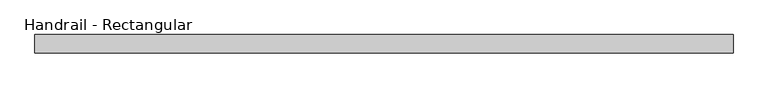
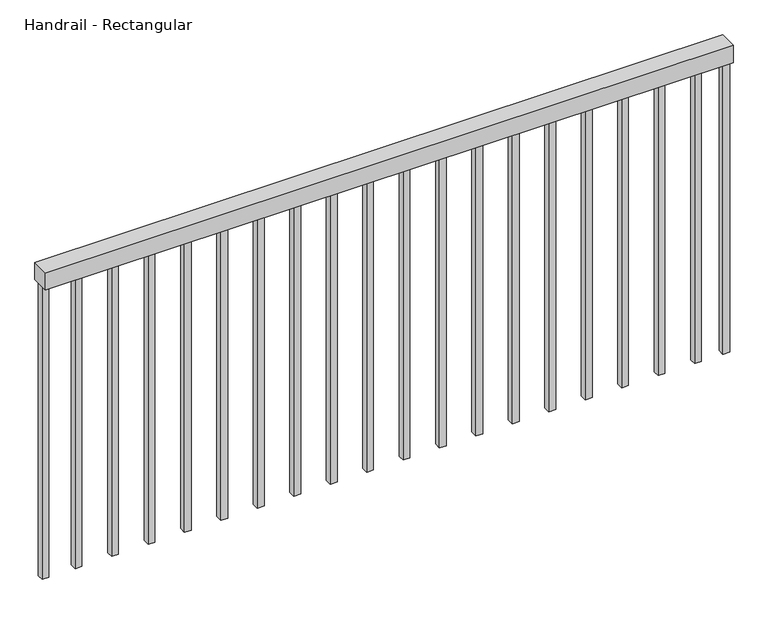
"""IFC4 building model written with IfcOpenShell, lengths in millimetres: railing geometry, Handrail - Rectangular."""

import ifcopenshell
import ifcopenshell.guid

model = None  # the IFC model being written
_history = None  # IfcOwnerHistory: only IFC2X3 demands one
_inside = {}  # id of a spatial element -> (the spatial element, [elements in it])
_under = {}  # id of a project, library or spatial element -> (it, [spatial elements below it])
_declared = {}  # id of a project -> (the project, [libraries it declares])
_typed = {}  # id of a type object -> (the type object, [elements of that type])
_made_of = {}  # id of a material, layer set ... -> (it, [elements and type objects made of it])


def new_model(schema):
    """Start an empty IFC model of exactly this schema.

    Asked for "IFC4X3", IfcOpenShell would pick the latest addendum, in which some entities
    have other attributes; the version numbers below select the first issue.
    IFC2X3 requires an IfcOwnerHistory on every rooted entity: one is made here for all.
    """
    global model, _history
    if schema == "IFC4X3":
        model = ifcopenshell.file(schema_version=(4, 3, 0, 0))
    else:
        model = ifcopenshell.file(schema=schema)
    _inside.clear()
    _under.clear()
    _declared.clear()
    _typed.clear()
    _made_of.clear()
    _history = None
    if model.schema == "IFC2X3":
        org = make("IfcOrganization", Name="unknown")
        user = make(
            "IfcPersonAndOrganization",
            ThePerson=make("IfcPerson", FamilyName="unknown"),
            TheOrganization=org,
        )
        app = make(
            "IfcApplication",
            ApplicationDeveloper=org,
            Version="unknown",
            ApplicationFullName="unknown",
            ApplicationIdentifier="unknown",
        )
        _history = make(
            "IfcOwnerHistory",
            OwningUser=user,
            OwningApplication=app,
            ChangeAction="ADDED",
            CreationDate=0,
        )
    return model


def make(cls, **values):
    """One entity of the class cls with the attributes given. An attribute that is None is left unset."""
    return model.create_entity(
        cls, **{name: value for name, value in values.items() if value is not None}
    )


def rooted(cls, **values):
    """An entity with a GlobalId (a new one), such as an element, a storey or a relation."""
    return make(cls, GlobalId=ifcopenshell.guid.new(), OwnerHistory=_history, **values)


def si_unit(unit_type, name, prefix=None):
    """IfcSIUnit, for example si_unit("LENGTHUNIT", "METRE", prefix="MILLI")."""
    return make("IfcSIUnit", UnitType=unit_type, Prefix=prefix, Name=name)


def assignment(units):
    """IfcUnitAssignment: the units of a project."""
    return None if units is None else make("IfcUnitAssignment", Units=units)


def point(xyz):
    """IfcCartesianPoint."""
    return None if xyz is None else make("IfcCartesianPoint", Coordinates=xyz)


def direction(xyz):
    """IfcDirection."""
    return None if xyz is None else make("IfcDirection", DirectionRatios=xyz)


def frame(location, z_axis=None, x_axis=None):
    """IfcAxis2Placement3D, a coordinate frame: its origin and axes. An axis left out is left unset."""
    return make(
        "IfcAxis2Placement3D",
        Location=point(location),
        Axis=direction(z_axis),
        RefDirection=direction(x_axis),
    )


def origin():
    """The frame at (0, 0, 0) with its axes left unset."""
    return frame((0.0, 0.0, 0.0))


def place(relative_to, where):
    """IfcLocalPlacement: puts the frame where relative to a parent placement (None: the world)."""
    return make(
        "IfcLocalPlacement", PlacementRelTo=relative_to, RelativePlacement=where
    )


def context(
    kind, dimensions, precision=None, world=None, true_north=None, identifier=None
):
    """IfcGeometricRepresentationContext, for example the 3D "Model" context."""
    return make(
        "IfcGeometricRepresentationContext",
        ContextIdentifier=identifier,
        ContextType=kind,
        CoordinateSpaceDimension=dimensions,
        Precision=precision,
        WorldCoordinateSystem=world,
        TrueNorth=true_north,
    )


def project(units=None, contexts=None):
    """IfcProject with its units and contexts."""
    return rooted(
        "IfcProject",
        Name="project",
        RepresentationContexts=contexts,
        UnitsInContext=assignment(units),
    )


def spatial(cls, under=None, at=None, **own):
    """A site, building, storey or space (cls), placed at a placement, below another one or the project."""
    s = rooted(cls, ObjectPlacement=at, **own)
    if under is not None:
        _under.setdefault(under.id(), (under, []))[1].append(s)
    return s


def polyline(points):
    """IfcPolyline through the points."""
    return make("IfcPolyline", Points=[point(p) for p in points])


def outline(outer, holes=None, kind="AREA"):
    """IfcArbitraryClosedProfileDef: a profile drawn as a closed curve; with holes, ...WithVoids."""
    if holes is None:
        return make("IfcArbitraryClosedProfileDef", ProfileType=kind, OuterCurve=outer)
    return make(
        "IfcArbitraryProfileDefWithVoids",
        ProfileType=kind,
        OuterCurve=outer,
        InnerCurves=holes,
    )


def extrude(swept, where, along, depth):
    """IfcExtrudedAreaSolid: the profile swept, set in the frame where, extruded along a direction by depth."""
    return make(
        "IfcExtrudedAreaSolid",
        SweptArea=swept,
        Position=where,
        ExtrudedDirection=direction(along),
        Depth=depth,
    )


def shape(context_of_items, identifier, shape_type, items):
    """IfcShapeRepresentation: the items that make up one representation, for example the "Body"."""
    return make(
        "IfcShapeRepresentation",
        ContextOfItems=context_of_items,
        RepresentationIdentifier=identifier,
        RepresentationType=shape_type,
        Items=items,
    )


def source(mapping_origin, context_of_items, identifier, shape_type, items):
    """IfcRepresentationMap: a shape defined once, which mapped items show again and again."""
    return make(
        "IfcRepresentationMap",
        MappingOrigin=mapping_origin,
        MappedRepresentation=shape(context_of_items, identifier, shape_type, items),
    )


def transform(
    local_origin,
    x_axis=None,
    y_axis=None,
    z_axis=None,
    scale=None,
    scale2=None,
    scale3=None,
    uniform=True,
):
    """IfcCartesianTransformationOperator3D, or its non-uniform kind. x_axis, y_axis, z_axis: its Axis1, 2, 3."""
    if uniform:
        return make(
            "IfcCartesianTransformationOperator3D",
            Axis1=direction(x_axis),
            Axis2=direction(y_axis),
            LocalOrigin=point(local_origin),
            Scale=scale,
            Axis3=direction(z_axis),
        )
    return make(
        "IfcCartesianTransformationOperator3DnonUniform",
        Axis1=direction(x_axis),
        Axis2=direction(y_axis),
        LocalOrigin=point(local_origin),
        Scale=scale,
        Axis3=direction(z_axis),
        Scale2=scale2,
        Scale3=scale3,
    )


def mapped(mapping_source, mapping_target):
    """IfcMappedItem: shows the shape of a source again, moved by a transform."""
    return make(
        "IfcMappedItem", MappingSource=mapping_source, MappingTarget=mapping_target
    )


def made_of(thing, what):
    """Note that an element or type object is made of a material, layer set ...; save() writes the relation."""
    if what is not None:
        _made_of.setdefault(what.id(), (what, []))[1].append(thing)
    return thing


def element(
    cls,
    number,
    at=None,
    inside=None,
    cuts=None,
    type_object=None,
    material=None,
    context=None,
    identifier="Body",
    shape_type=None,
    held_by="IfcProductDefinitionShape",
    body=None,
    shapes=None,
    **own,
):
    """One element of the class cls, such as IfcWall. Its Tag is "e" and its number.

    at: its placement. inside: the storey or other place that contains it. cuts: it is an
    opening in that element (IfcRelVoidsElement). A single representation is given by context,
    identifier, shape_type and body (its items); several are given by shapes. held_by: the class
    of the entity that holds the representations. save() writes the other relations.
    """
    e = rooted(cls, Tag="e%d" % number, ObjectPlacement=at, **own)
    if body is not None:
        shapes = [shape(context, identifier, shape_type, body)]
    if shapes is not None:
        e.Representation = make(held_by, Representations=shapes)
    if inside is not None:
        _inside.setdefault(inside.id(), (inside, []))[1].append(e)
    if cuts is not None:
        rooted(
            "IfcRelVoidsElement", RelatingBuildingElement=cuts, RelatedOpeningElement=e
        )
    if type_object is not None:
        _typed.setdefault(type_object.id(), (type_object, []))[1].append(e)
    return made_of(e, material)


def aggregate(whole, parts):
    """IfcRelAggregates: a whole, such as a stair, and the parts it consists of."""
    return rooted("IfcRelAggregates", RelatingObject=whole, RelatedObjects=parts)


def save(model, path):
    """Write the relations noted so far, then the file.

    IfcRelAggregates (storeys below a building ...), IfcRelContainedInSpatialStructure (elements
    in a storey), IfcRelDefinesByType, IfcRelAssociatesMaterial and IfcRelDeclares: one each for
    every whole, place, type object, material and project.
    """
    for whole, parts in _under.values():
        aggregate(whole, parts)
    for where, things in _inside.values():
        rooted(
            "IfcRelContainedInSpatialStructure",
            RelatedElements=things,
            RelatingStructure=where,
        )
    for kind, things in _typed.values():
        rooted("IfcRelDefinesByType", RelatedObjects=things, RelatingType=kind)
    for what, things in _made_of.values():
        rooted("IfcRelAssociatesMaterial", RelatedObjects=things, RelatingMaterial=what)
    for by, libraries in _declared.values():
        rooted("IfcRelDeclares", RelatingContext=by, RelatedDefinitions=libraries)
    model.write(path)


def handrail_rectangular_fea96ac0(model_context):
    return source(origin(), model_context, "Body", "SweptSolid", [
        extrude(outline(polyline([(-6434.5274687, 6951.1758812), (-6434.5274687, 7001.9758812), (-4516.8274687, 7001.9758812), (-4516.8274687, 6951.1758812), (-6434.5274687, 6951.1758812)])), frame((0.0, 0.0, 10007.6), z_axis=(0.0, 0.0, 1.0), x_axis=(1.0, 0.0, 0.0)), (0.0, 0.0, 1.0), 50.8),
        extrude(outline(polyline([(-4615.2524687, 6967.0508812), (-4615.2524687, 6986.1008812), (-4596.2024687, 6986.1008812), (-4596.2024687, 6967.0508812), (-4615.2524687, 6967.0508812)])), frame((0.0, 0.0, 9144.0), z_axis=(0.0, 0.0, 1.0), x_axis=(1.0, 0.0, 0.0)), (0.0, 0.0, 1.0), 863.6),
        extrude(outline(polyline([(-4716.8524687, 6967.0508812), (-4716.8524687, 6986.1008812), (-4697.8024687, 6986.1008812), (-4697.8024687, 6967.0508812), (-4716.8524687, 6967.0508812)])), frame((0.0, 0.0, 9144.0), z_axis=(0.0, 0.0, 1.0), x_axis=(1.0, 0.0, 0.0)), (0.0, 0.0, 1.0), 863.6),
        extrude(outline(polyline([(-4818.4524687, 6967.0508812), (-4818.4524687, 6986.1008812), (-4799.4024687, 6986.1008812), (-4799.4024687, 6967.0508812), (-4818.4524687, 6967.0508812)])), frame((0.0, 0.0, 9144.0), z_axis=(0.0, 0.0, 1.0), x_axis=(1.0, 0.0, 0.0)), (0.0, 0.0, 1.0), 863.6),
        extrude(outline(polyline([(-4920.0524687, 6967.0508812), (-4920.0524687, 6986.1008812), (-4901.0024687, 6986.1008812), (-4901.0024687, 6967.0508812), (-4920.0524687, 6967.0508812)])), frame((0.0, 0.0, 9144.0), z_axis=(0.0, 0.0, 1.0), x_axis=(1.0, 0.0, 0.0)), (0.0, 0.0, 1.0), 863.6),
        extrude(outline(polyline([(-5021.6524687, 6967.0508812), (-5021.6524687, 6986.1008812), (-5002.6024687, 6986.1008812), (-5002.6024687, 6967.0508812), (-5021.6524687, 6967.0508812)])), frame((0.0, 0.0, 9144.0), z_axis=(0.0, 0.0, 1.0), x_axis=(1.0, 0.0, 0.0)), (0.0, 0.0, 1.0), 863.6),
        extrude(outline(polyline([(-5123.2524687, 6967.0508812), (-5123.2524687, 6986.1008812), (-5104.2024687, 6986.1008812), (-5104.2024687, 6967.0508812), (-5123.2524687, 6967.0508812)])), frame((0.0, 0.0, 9144.0), z_axis=(0.0, 0.0, 1.0), x_axis=(1.0, 0.0, 0.0)), (0.0, 0.0, 1.0), 863.6),
        extrude(outline(polyline([(-5224.8524687, 6967.0508812), (-5224.8524687, 6986.1008812), (-5205.8024687, 6986.1008812), (-5205.8024687, 6967.0508812), (-5224.8524687, 6967.0508812)])), frame((0.0, 0.0, 9144.0), z_axis=(0.0, 0.0, 1.0), x_axis=(1.0, 0.0, 0.0)), (0.0, 0.0, 1.0), 863.6),
        extrude(outline(polyline([(-5326.4524687, 6967.0508812), (-5326.4524687, 6986.1008812), (-5307.4024687, 6986.1008812), (-5307.4024687, 6967.0508812), (-5326.4524687, 6967.0508812)])), frame((0.0, 0.0, 9144.0), z_axis=(0.0, 0.0, 1.0), x_axis=(1.0, 0.0, 0.0)), (0.0, 0.0, 1.0), 863.6),
        extrude(outline(polyline([(-5428.0524687, 6967.0508812), (-5428.0524687, 6986.1008812), (-5409.0024687, 6986.1008812), (-5409.0024687, 6967.0508812), (-5428.0524687, 6967.0508812)])), frame((0.0, 0.0, 9144.0), z_axis=(0.0, 0.0, 1.0), x_axis=(1.0, 0.0, 0.0)), (0.0, 0.0, 1.0), 863.6),
        extrude(outline(polyline([(-5529.6524687, 6967.0508812), (-5529.6524687, 6986.1008812), (-5510.6024687, 6986.1008812), (-5510.6024687, 6967.0508812), (-5529.6524687, 6967.0508812)])), frame((0.0, 0.0, 9144.0), z_axis=(0.0, 0.0, 1.0), x_axis=(1.0, 0.0, 0.0)), (0.0, 0.0, 1.0), 863.6),
        extrude(outline(polyline([(-5631.2524687, 6967.0508812), (-5631.2524687, 6986.1008812), (-5612.2024687, 6986.1008812), (-5612.2024687, 6967.0508812), (-5631.2524687, 6967.0508812)])), frame((0.0, 0.0, 9144.0), z_axis=(0.0, 0.0, 1.0), x_axis=(1.0, 0.0, 0.0)), (0.0, 0.0, 1.0), 863.6),
        extrude(outline(polyline([(-5732.8524687, 6967.0508812), (-5732.8524687, 6986.1008812), (-5713.8024687, 6986.1008812), (-5713.8024687, 6967.0508812), (-5732.8524687, 6967.0508812)])), frame((0.0, 0.0, 9144.0), z_axis=(0.0, 0.0, 1.0), x_axis=(1.0, 0.0, 0.0)), (0.0, 0.0, 1.0), 863.6),
        extrude(outline(polyline([(-5834.4524687, 6967.0508812), (-5834.4524687, 6986.1008812), (-5815.4024687, 6986.1008812), (-5815.4024687, 6967.0508812), (-5834.4524687, 6967.0508812)])), frame((0.0, 0.0, 9144.0), z_axis=(0.0, 0.0, 1.0), x_axis=(1.0, 0.0, 0.0)), (0.0, 0.0, 1.0), 863.6),
        extrude(outline(polyline([(-5936.0524687, 6967.0508812), (-5936.0524687, 6986.1008812), (-5917.0024687, 6986.1008812), (-5917.0024687, 6967.0508812), (-5936.0524687, 6967.0508812)])), frame((0.0, 0.0, 9144.0), z_axis=(0.0, 0.0, 1.0), x_axis=(1.0, 0.0, 0.0)), (0.0, 0.0, 1.0), 863.6),
        extrude(outline(polyline([(-6037.6524687, 6967.0508812), (-6037.6524687, 6986.1008812), (-6018.6024687, 6986.1008812), (-6018.6024687, 6967.0508812), (-6037.6524687, 6967.0508812)])), frame((0.0, 0.0, 9144.0), z_axis=(0.0, 0.0, 1.0), x_axis=(1.0, 0.0, 0.0)), (0.0, 0.0, 1.0), 863.6),
        extrude(outline(polyline([(-6139.2524687, 6967.0508812), (-6139.2524687, 6986.1008812), (-6120.2024687, 6986.1008812), (-6120.2024687, 6967.0508812), (-6139.2524687, 6967.0508812)])), frame((0.0, 0.0, 9144.0), z_axis=(0.0, 0.0, 1.0), x_axis=(1.0, 0.0, 0.0)), (0.0, 0.0, 1.0), 863.6),
        extrude(outline(polyline([(-6240.8524687, 6967.0508812), (-6240.8524687, 6986.1008812), (-6221.8024687, 6986.1008812), (-6221.8024687, 6967.0508812), (-6240.8524687, 6967.0508812)])), frame((0.0, 0.0, 9144.0), z_axis=(0.0, 0.0, 1.0), x_axis=(1.0, 0.0, 0.0)), (0.0, 0.0, 1.0), 863.6),
        extrude(outline(polyline([(-6342.4524687, 6967.0508812), (-6342.4524687, 6986.1008812), (-6323.4024687, 6986.1008812), (-6323.4024687, 6967.0508812), (-6342.4524687, 6967.0508812)])), frame((0.0, 0.0, 9144.0), z_axis=(0.0, 0.0, 1.0), x_axis=(1.0, 0.0, 0.0)), (0.0, 0.0, 1.0), 863.6),
        extrude(outline(polyline([(-4535.8774687, 6967.0508812), (-4535.8774687, 6986.1008812), (-4516.8274687, 6986.1008812), (-4516.8274687, 6967.0508812), (-4535.8774687, 6967.0508812)])), frame((0.0, 0.0, 9144.0), z_axis=(0.0, 0.0, 1.0), x_axis=(1.0, 0.0, 0.0)), (0.0, 0.0, 1.0), 863.6),
        extrude(outline(polyline([(-6434.5274687, 6967.0508812), (-6434.5274687, 6986.1008812), (-6415.4774687, 6986.1008812), (-6415.4774687, 6967.0508812), (-6434.5274687, 6967.0508812)])), frame((0.0, 0.0, 9144.0), z_axis=(0.0, 0.0, 1.0), x_axis=(1.0, 0.0, 0.0)), (0.0, 0.0, 1.0), 863.6),
    ])


if __name__ == "__main__":
    model = new_model("IFC4")
    model_context = context("Model", 3, world=origin())
    ifc_project = project(units=[si_unit("LENGTHUNIT", "METRE", prefix="MILLI")], contexts=[model_context])
    site = spatial("IfcSite", under=ifc_project)
    building = spatial("IfcBuilding", under=site)
    placement = place(None, origin())
    handrail_rectangular_shape = handrail_rectangular_fea96ac0(model_context)
    element("IfcRailing", 1, ObjectType="Handrail - Rectangular", at=placement, inside=building, context=model_context, shape_type="MappedRepresentation", body=[
        mapped(handrail_rectangular_shape, transform((0.0, 0.0, 0.0), x_axis=(1.0, 0.0, 0.0), y_axis=(0.0, 1.0, 0.0), z_axis=(0.0, 0.0, 1.0))),
    ])
    save(model, "model.ifc")
